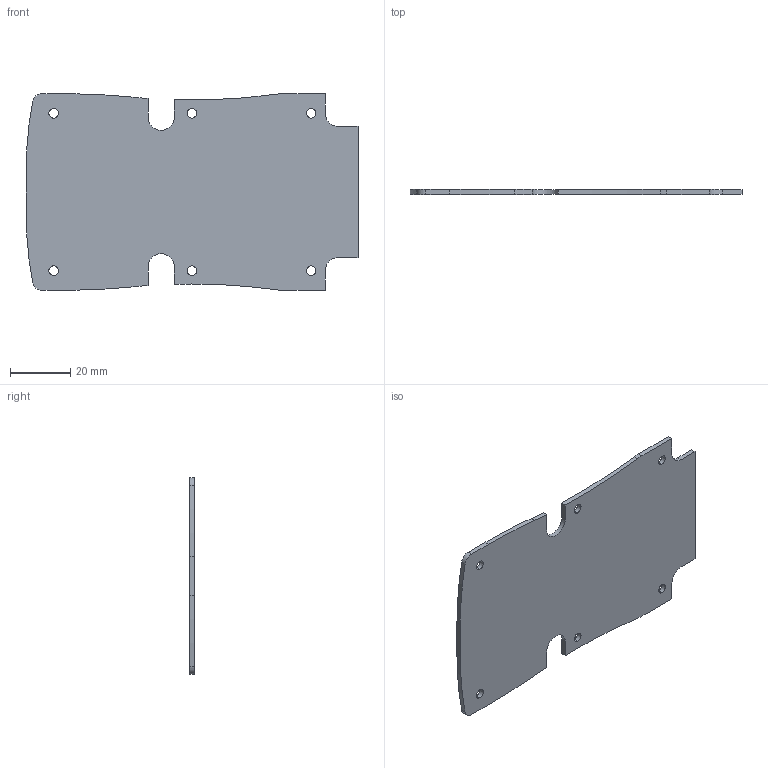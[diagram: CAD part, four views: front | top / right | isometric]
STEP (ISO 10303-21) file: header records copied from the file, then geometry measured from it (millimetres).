
FILE_DESCRIPTION (( 'STEP AP214' ), '1' );
FILE_NAME ('VM-24B-PCB.STEP', '2025-03-26T16:54:51', ( '' ), ( '' ), 'SwSTEP 2.0', 'SolidWorks 2025', '' );
FILE_SCHEMA (( 'AUTOMOTIVE_DESIGN' ));
Length unit declared in the file: inch
Products named in the file (1): VM-24B-PCB
Bounding box: 110.55 x 1.59 x 65.42 mm (x, y, z)
Volume: 10437.4 mm3; surface area: 13841 mm2
Topology: 1 solids, 1 shells, 46 faces, 132 edges, 88 vertices
Faces by surface type: cylinder 30, plane 16
Entity records: 1587 total; most frequent: DIRECTION 286, CARTESIAN_POINT 267, ORIENTED_EDGE 264, EDGE_CURVE 132, AXIS2_PLACEMENT_3D 107, VERTEX_POINT 88, LINE 72, VECTOR 72
